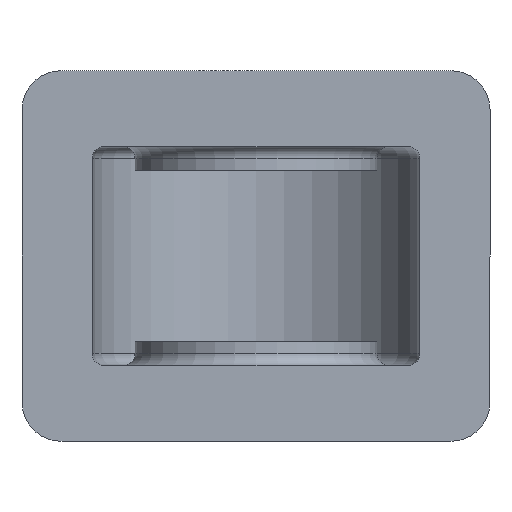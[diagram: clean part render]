
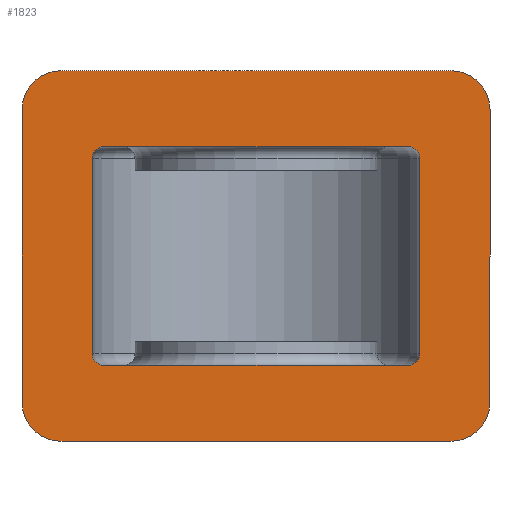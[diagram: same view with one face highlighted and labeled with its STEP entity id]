
A CAD part, front view. The second image highlights one B-rep face of the part: STEP entity #1823.
In plain terms, the highlighted planar face has unit normal (0, -1, 0).
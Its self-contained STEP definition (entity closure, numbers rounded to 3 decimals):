
#1049=CARTESIAN_POINT('',(-60.0,-50.,-37.5));
#1050=VERTEX_POINT('',#1049);
#1057=CARTESIAN_POINT('',(-60.0,-50.,37.5));
#1058=VERTEX_POINT('',#1057);
#1059=CARTESIAN_POINT('',(-60.0,-50.,-37.5));
#1060=DIRECTION('',(0.0,0.0,1.0));
#1061=VECTOR('',#1060,75.0);
#1062=LINE('',#1059,#1061);
#1063=EDGE_CURVE('',#1050,#1058,#1062,.T.);
#1080=CARTESIAN_POINT('',(-50.0,-50.,-47.5));
#1081=VERTEX_POINT('',#1080);
#1088=CARTESIAN_POINT('',(-50.0,-50.,-37.5));
#1089=DIRECTION('',(0.0,1.0,0.0));
#1090=DIRECTION('',(-0.707,0.0,-0.707));
#1091=AXIS2_PLACEMENT_3D('',#1088,#1089,#1090);
#1092=CIRCLE('',#1091,10.);
#1093=EDGE_CURVE('',#1081,#1050,#1092,.T.);
#1105=CARTESIAN_POINT('',(50.0,-50.,-47.5));
#1106=VERTEX_POINT('',#1105);
#1113=CARTESIAN_POINT('',(50.0,-50.,-47.5));
#1114=DIRECTION('',(-1.0,0.0,0.0));
#1115=VECTOR('',#1114,100.0);
#1116=LINE('',#1113,#1115);
#1117=EDGE_CURVE('',#1106,#1081,#1116,.T.);
#1129=CARTESIAN_POINT('',(60.0,-50.,-37.5));
#1130=VERTEX_POINT('',#1129);
#1137=CARTESIAN_POINT('',(50.0,-50.,-37.5));
#1138=DIRECTION('',(0.0,1.0,0.0));
#1139=DIRECTION('',(0.707,0.0,-0.707));
#1140=AXIS2_PLACEMENT_3D('',#1137,#1138,#1139);
#1141=CIRCLE('',#1140,10.);
#1142=EDGE_CURVE('',#1130,#1106,#1141,.T.);
#1303=CARTESIAN_POINT('',(39.,-50.,-28.));
#1304=VERTEX_POINT('',#1303);
#1320=CARTESIAN_POINT('',(-39.,-50.,-28.));
#1321=VERTEX_POINT('',#1320);
#1328=CARTESIAN_POINT('',(39.0,-50.,-28.));
#1329=DIRECTION('',(-1.0,0.0,0.0));
#1330=VECTOR('',#1329,78.0);
#1331=LINE('',#1328,#1330);
#1332=EDGE_CURVE('',#1304,#1321,#1331,.T.);
#1395=CARTESIAN_POINT('',(-39.,-50.,28.));
#1396=VERTEX_POINT('',#1395);
#1412=CARTESIAN_POINT('',(39.,-50.,28.));
#1413=VERTEX_POINT('',#1412);
#1420=CARTESIAN_POINT('',(-39.0,-50.,28.));
#1421=DIRECTION('',(1.0,0.0,0.0));
#1422=VECTOR('',#1421,78.0);
#1423=LINE('',#1420,#1422);
#1424=EDGE_CURVE('',#1396,#1413,#1423,.T.);
#1728=CARTESIAN_POINT('',(-51.0,-50.,0.0));
#1729=DIRECTION('',(0.0,-1.0,0.0));
#1730=DIRECTION('',(1.0,0.0,0.0));
#1731=AXIS2_PLACEMENT_3D('',#1728,#1729,#1730);
#1732=PLANE('',#1731);
#1733=ORIENTED_EDGE('',*,*,#1093,.F.);
#1734=ORIENTED_EDGE('',*,*,#1117,.F.);
#1735=ORIENTED_EDGE('',*,*,#1142,.F.);
#1736=CARTESIAN_POINT('',(60.,-50.,37.5));
#1737=VERTEX_POINT('',#1736);
#1738=CARTESIAN_POINT('',(60.,-50.,37.5));
#1739=DIRECTION('',(0.0,0.0,-1.0));
#1740=VECTOR('',#1739,75.);
#1741=LINE('',#1738,#1740);
#1742=EDGE_CURVE('',#1737,#1130,#1741,.T.);
#1743=ORIENTED_EDGE('',*,*,#1742,.F.);
#1744=CARTESIAN_POINT('',(50.,-50.,47.5));
#1745=VERTEX_POINT('',#1744);
#1746=CARTESIAN_POINT('',(50.,-50.,37.5));
#1747=DIRECTION('',(0.0,1.0,0.0));
#1748=DIRECTION('',(0.707,0.0,0.707));
#1749=AXIS2_PLACEMENT_3D('',#1746,#1747,#1748);
#1750=CIRCLE('',#1749,10.);
#1751=EDGE_CURVE('',#1745,#1737,#1750,.T.);
#1752=ORIENTED_EDGE('',*,*,#1751,.F.);
#1753=CARTESIAN_POINT('',(-50.0,-50.,47.5));
#1754=VERTEX_POINT('',#1753);
#1755=CARTESIAN_POINT('',(-50.0,-50.,47.5));
#1756=DIRECTION('',(1.0,0.0,0.0));
#1757=VECTOR('',#1756,100.);
#1758=LINE('',#1755,#1757);
#1759=EDGE_CURVE('',#1754,#1745,#1758,.T.);
#1760=ORIENTED_EDGE('',*,*,#1759,.F.);
#1761=CARTESIAN_POINT('',(-50.0,-50.,37.5));
#1762=DIRECTION('',(0.0,1.0,0.0));
#1763=DIRECTION('',(-0.707,0.0,0.707));
#1764=AXIS2_PLACEMENT_3D('',#1761,#1762,#1763);
#1765=CIRCLE('',#1764,10.);
#1766=EDGE_CURVE('',#1058,#1754,#1765,.T.);
#1767=ORIENTED_EDGE('',*,*,#1766,.F.);
#1768=ORIENTED_EDGE('',*,*,#1063,.F.);
#1769=EDGE_LOOP('',(#1733,#1734,#1735,#1743,#1752,#1760,#1767,#1768));
#1770=FACE_OUTER_BOUND('',#1769,.T.);
#1771=CARTESIAN_POINT('',(42.,-50.,25.0));
#1772=VERTEX_POINT('',#1771);
#1773=CARTESIAN_POINT('',(42.,-50.,-25.0));
#1774=VERTEX_POINT('',#1773);
#1775=CARTESIAN_POINT('',(42.,-50.,25.0));
#1776=DIRECTION('',(0.0,0.0,-1.0));
#1777=VECTOR('',#1776,50.0);
#1778=LINE('',#1775,#1777);
#1779=EDGE_CURVE('',#1772,#1774,#1778,.T.);
#1780=ORIENTED_EDGE('',*,*,#1779,.T.);
#1781=CARTESIAN_POINT('',(39.,-50.,-25.0));
#1782=DIRECTION('',(0.0,-1.0,0.0));
#1783=DIRECTION('',(0.707,0.0,-0.707));
#1784=AXIS2_PLACEMENT_3D('',#1781,#1782,#1783);
#1785=CIRCLE('',#1784,3.0);
#1786=EDGE_CURVE('',#1304,#1774,#1785,.T.);
#1787=ORIENTED_EDGE('',*,*,#1786,.F.);
#1788=ORIENTED_EDGE('',*,*,#1332,.T.);
#1789=CARTESIAN_POINT('',(-42.,-50.,-25.0));
#1790=VERTEX_POINT('',#1789);
#1791=CARTESIAN_POINT('',(-39.,-50.,-25.0));
#1792=DIRECTION('',(0.0,-1.0,0.0));
#1793=DIRECTION('',(-0.707,0.0,-0.707));
#1794=AXIS2_PLACEMENT_3D('',#1791,#1792,#1793);
#1795=CIRCLE('',#1794,3.);
#1796=EDGE_CURVE('',#1790,#1321,#1795,.T.);
#1797=ORIENTED_EDGE('',*,*,#1796,.F.);
#1798=CARTESIAN_POINT('',(-42.,-50.,25.0));
#1799=VERTEX_POINT('',#1798);
#1800=CARTESIAN_POINT('',(-42.,-50.,-25.0));
#1801=DIRECTION('',(0.0,0.0,1.0));
#1802=VECTOR('',#1801,50.0);
#1803=LINE('',#1800,#1802);
#1804=EDGE_CURVE('',#1790,#1799,#1803,.T.);
#1805=ORIENTED_EDGE('',*,*,#1804,.T.);
#1806=CARTESIAN_POINT('',(-39.,-50.,25.0));
#1807=DIRECTION('',(0.0,-1.0,0.0));
#1808=DIRECTION('',(-0.707,0.0,0.707));
#1809=AXIS2_PLACEMENT_3D('',#1806,#1807,#1808);
#1810=CIRCLE('',#1809,3.);
#1811=EDGE_CURVE('',#1396,#1799,#1810,.T.);
#1812=ORIENTED_EDGE('',*,*,#1811,.F.);
#1813=ORIENTED_EDGE('',*,*,#1424,.T.);
#1814=CARTESIAN_POINT('',(39.,-50.,25.0));
#1815=DIRECTION('',(0.0,-1.0,0.0));
#1816=DIRECTION('',(0.707,0.0,0.707));
#1817=AXIS2_PLACEMENT_3D('',#1814,#1815,#1816);
#1818=CIRCLE('',#1817,3.0);
#1819=EDGE_CURVE('',#1772,#1413,#1818,.T.);
#1820=ORIENTED_EDGE('',*,*,#1819,.F.);
#1821=EDGE_LOOP('',(#1780,#1787,#1788,#1797,#1805,#1812,#1813,#1820));
#1822=FACE_BOUND('',#1821,.T.);
#1823=ADVANCED_FACE('',(#1770,#1822),#1732,.T.);
